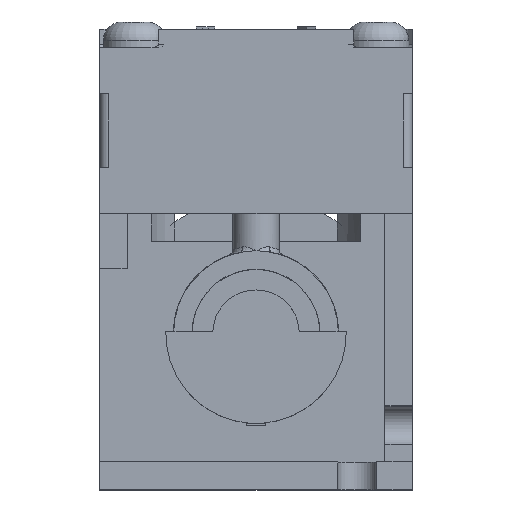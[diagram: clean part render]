
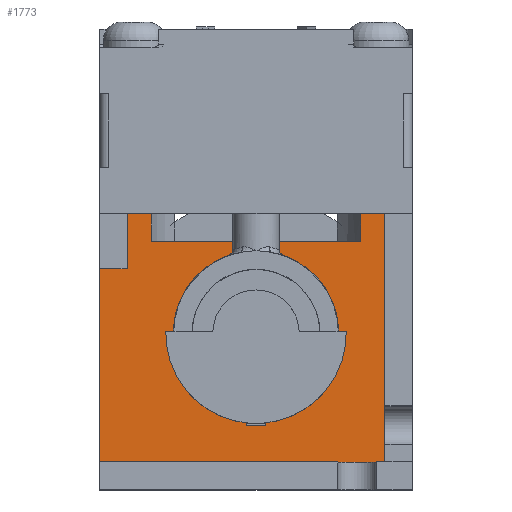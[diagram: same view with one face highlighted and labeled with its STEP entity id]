
A CAD part, top view. The second image highlights one B-rep face of the part: STEP entity #1773.
In plain terms, the highlighted planar face has unit normal (0, 0, 1).
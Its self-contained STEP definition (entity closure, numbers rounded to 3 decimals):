
#96 = ORIENTED_EDGE ( 'NONE', *, *, #11524, .T. ) ;
#382 = LINE ( 'NONE', #13993, #9386 ) ;
#481 = CARTESIAN_POINT ( 'NONE',  ( 7., 1.5, 2.3 ) ) ;
#971 = VERTEX_POINT ( 'NONE', #13028 ) ;
#1221 = EDGE_CURVE ( 'NONE', #2490, #4981, #10039, .T. ) ;
#1248 = CARTESIAN_POINT ( 'NONE',  ( -7., 15., 2.3 ) ) ;
#1351 = CARTESIAN_POINT ( 'NONE',  ( -5.702, 13.5, 2.3 ) ) ;
#1577 = VECTOR ( 'NONE', #3260, 1000. ) ;
#1773 = ADVANCED_FACE ( 'NONE', ( #7826 ), #10508, .T. ) ;
#1843 = EDGE_LOOP ( 'NONE', ( #7771, #10975, #6814, #12731, #10600, #96, #2191, #2461, #3479, #8005 ) ) ;
#1980 = DIRECTION ( 'NONE',  ( 0., -1., 0. ) ) ;
#2077 = CARTESIAN_POINT ( 'NONE',  ( -7., 15., 2.3 ) ) ;
#2191 = ORIENTED_EDGE ( 'NONE', *, *, #1221, .T. ) ;
#2275 = CARTESIAN_POINT ( 'NONE',  ( -7., 1.5, 2.3 ) ) ;
#2312 = LINE ( 'NONE', #2077, #1577 ) ;
#2319 = CARTESIAN_POINT ( 'NONE',  ( 7., 1.5, 2.3 ) ) ;
#2461 = ORIENTED_EDGE ( 'NONE', *, *, #9655, .T. ) ;
#2490 = VERTEX_POINT ( 'NONE', #5968 ) ;
#2572 = VECTOR ( 'NONE', #6434, 1000. ) ;
#2596 = EDGE_CURVE ( 'NONE', #4708, #971, #2632, .T. ) ;
#2632 = LINE ( 'NONE', #13290, #14825 ) ;
#2961 = VECTOR ( 'NONE', #6065, 1000. ) ;
#3106 = EDGE_CURVE ( 'NONE', #12077, #7457, #11682, .T. ) ;
#3260 = DIRECTION ( 'NONE',  ( 0., -1., 0. ) ) ;
#3479 = ORIENTED_EDGE ( 'NONE', *, *, #9527, .T. ) ;
#3792 = VECTOR ( 'NONE', #1980, 1000. ) ;
#4237 = LINE ( 'NONE', #2275, #7371 ) ;
#4566 = VECTOR ( 'NONE', #14440, 1000. ) ;
#4708 = VERTEX_POINT ( 'NONE', #13897 ) ;
#4927 = LINE ( 'NONE', #13249, #4566 ) ;
#4981 = VERTEX_POINT ( 'NONE', #11897 ) ;
#5504 = VERTEX_POINT ( 'NONE', #2319 ) ;
#5533 = CARTESIAN_POINT ( 'NONE',  ( -8.5, 12., 2.3 ) ) ;
#5720 = LINE ( 'NONE', #481, #2572 ) ;
#5968 = CARTESIAN_POINT ( 'NONE',  ( -8.5, 12., 2.3 ) ) ;
#6031 = VECTOR ( 'NONE', #7454, 1000. ) ;
#6047 = CARTESIAN_POINT ( 'NONE',  ( -7., 12., 2.3 ) ) ;
#6065 = DIRECTION ( 'NONE',  ( 0., 1., 0. ) ) ;
#6434 = DIRECTION ( 'NONE',  ( 0., 1., 0. ) ) ;
#6561 = CARTESIAN_POINT ( 'NONE',  ( -5.702, 15., 2.3 ) ) ;
#6619 = VERTEX_POINT ( 'NONE', #6561 ) ;
#6814 = ORIENTED_EDGE ( 'NONE', *, *, #8197, .T. ) ;
#7315 = VERTEX_POINT ( 'NONE', #1248 ) ;
#7371 = VECTOR ( 'NONE', #8135, 1000. ) ;
#7454 = DIRECTION ( 'NONE',  ( 0., -1., 0. ) ) ;
#7457 = VERTEX_POINT ( 'NONE', #14545 ) ;
#7725 = EDGE_CURVE ( 'NONE', #6619, #7315, #382, .T. ) ;
#7771 = ORIENTED_EDGE ( 'NONE', *, *, #13770, .T. ) ;
#7826 = FACE_OUTER_BOUND ( 'NONE', #1843, .T. ) ;
#8005 = ORIENTED_EDGE ( 'NONE', *, *, #2596, .T. ) ;
#8094 = DIRECTION ( 'NONE',  ( 1., 0., 0. ) ) ;
#8135 = DIRECTION ( 'NONE',  ( 1., 0., 0. ) ) ;
#8160 = VECTOR ( 'NONE', #13309, 1000. ) ;
#8197 = EDGE_CURVE ( 'NONE', #12077, #6619, #9206, .T. ) ;
#8578 = DIRECTION ( 'NONE',  ( -1., 0., 0. ) ) ;
#9206 = LINE ( 'NONE', #14320, #2961 ) ;
#9386 = VECTOR ( 'NONE', #11617, 1000. ) ;
#9512 = LINE ( 'NONE', #12146, #6031 ) ;
#9527 = EDGE_CURVE ( 'NONE', #5504, #4708, #5720, .T. ) ;
#9655 = EDGE_CURVE ( 'NONE', #4981, #5504, #4237, .T. ) ;
#10039 = LINE ( 'NONE', #5533, #3792 ) ;
#10244 = CARTESIAN_POINT ( 'NONE',  ( -7., 1.5, 2.3 ) ) ;
#10332 = AXIS2_PLACEMENT_3D ( 'NONE', #10244, #14030, #8094 ) ;
#10508 = PLANE ( 'NONE',  #10332 ) ;
#10600 = ORIENTED_EDGE ( 'NONE', *, *, #14553, .T. ) ;
#10975 = ORIENTED_EDGE ( 'NONE', *, *, #3106, .F. ) ;
#11013 = VERTEX_POINT ( 'NONE', #6047 ) ;
#11524 = EDGE_CURVE ( 'NONE', #11013, #2490, #4927, .T. ) ;
#11617 = DIRECTION ( 'NONE',  ( -1., 0., 0. ) ) ;
#11682 = LINE ( 'NONE', #14494, #8160 ) ;
#11897 = CARTESIAN_POINT ( 'NONE',  ( -8.5, 1.5, 2.3 ) ) ;
#12077 = VERTEX_POINT ( 'NONE', #1351 ) ;
#12146 = CARTESIAN_POINT ( 'NONE',  ( 5.702, 13.5, 2.3 ) ) ;
#12731 = ORIENTED_EDGE ( 'NONE', *, *, #7725, .T. ) ;
#13028 = CARTESIAN_POINT ( 'NONE',  ( 5.702, 15., 2.3 ) ) ;
#13249 = CARTESIAN_POINT ( 'NONE',  ( 9.92, 12., 2.3 ) ) ;
#13290 = CARTESIAN_POINT ( 'NONE',  ( -7., 15., 2.3 ) ) ;
#13309 = DIRECTION ( 'NONE',  ( 1., 0., 0. ) ) ;
#13770 = EDGE_CURVE ( 'NONE', #971, #7457, #9512, .T. ) ;
#13897 = CARTESIAN_POINT ( 'NONE',  ( 7., 15., 2.3 ) ) ;
#13993 = CARTESIAN_POINT ( 'NONE',  ( -7., 15., 2.3 ) ) ;
#14030 = DIRECTION ( 'NONE',  ( 0., 0., 1. ) ) ;
#14320 = CARTESIAN_POINT ( 'NONE',  ( -5.702, 13.5, 2.3 ) ) ;
#14440 = DIRECTION ( 'NONE',  ( -1., 0., 0. ) ) ;
#14494 = CARTESIAN_POINT ( 'NONE',  ( 0., 13.5, 2.3 ) ) ;
#14545 = CARTESIAN_POINT ( 'NONE',  ( 5.702, 13.5, 2.3 ) ) ;
#14553 = EDGE_CURVE ( 'NONE', #7315, #11013, #2312, .T. ) ;
#14825 = VECTOR ( 'NONE', #8578, 1000. ) ;
